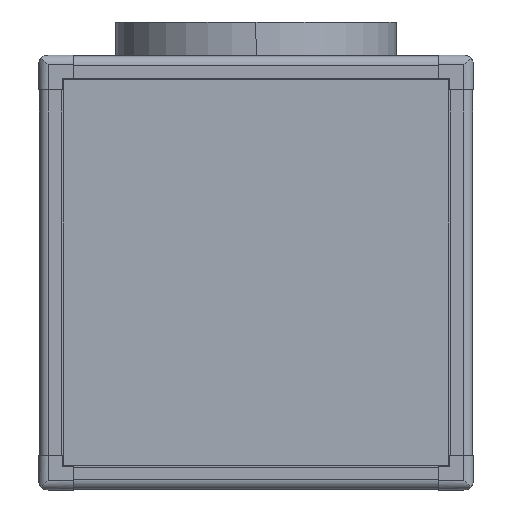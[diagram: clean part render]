
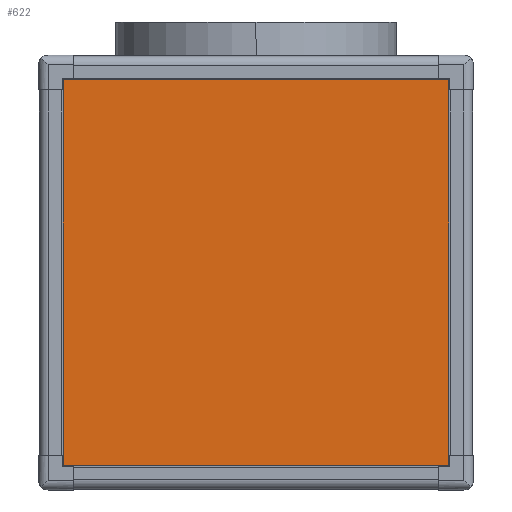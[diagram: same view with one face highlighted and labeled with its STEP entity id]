
A CAD part, front view. The second image highlights one B-rep face of the part: STEP entity #622.
In plain terms, the highlighted planar face has unit normal (0, -1, 0).
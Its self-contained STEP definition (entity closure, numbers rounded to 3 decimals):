
#622=ADVANCED_FACE('',(#1648),#1649,.T.);
#1648=FACE_OUTER_BOUND('',#3145,.T.);
#1649=PLANE('',#3146);
#3145=EDGE_LOOP('',(#5639,#5640,#5641,#5642));
#3146=AXIS2_PLACEMENT_3D('',#5643,#5644,#5645);
#5639=ORIENTED_EDGE('',*,*,#10647,.T.);
#5640=ORIENTED_EDGE('',*,*,#10639,.T.);
#5641=ORIENTED_EDGE('',*,*,#10654,.T.);
#5642=ORIENTED_EDGE('',*,*,#10631,.T.);
#5643=CARTESIAN_POINT('',(0.,-271.0,0.));
#5644=DIRECTION('',(0.,-1.0,0.));
#5645=DIRECTION('',(-1.0,0.,0.0));
#10631=EDGE_CURVE('',#13928,#13933,#13935,.T.);
#10639=EDGE_CURVE('',#13945,#13947,#13949,.T.);
#10647=EDGE_CURVE('',#13933,#13945,#13962,.T.);
#10654=EDGE_CURVE('',#13947,#13928,#13973,.T.);
#13928=VERTEX_POINT('',#20057);
#13933=VERTEX_POINT('',#20064);
#13935=LINE('',#20067,#20068);
#13945=VERTEX_POINT('',#20082);
#13947=VERTEX_POINT('',#20085);
#13949=LINE('',#20088,#20089);
#13962=LINE('',#20108,#20109);
#13973=LINE('',#20125,#20126);
#20057=CARTESIAN_POINT('',(244.0,-271.0,244.0));
#20064=CARTESIAN_POINT('',(-244.0,-271.0,244.0));
#20067=CARTESIAN_POINT('',(0.,-271.0,244.0));
#20068=VECTOR('',#25360,1.0);
#20082=CARTESIAN_POINT('',(-244.0,-271.0,-244.0));
#20085=CARTESIAN_POINT('',(244.0,-271.0,-244.0));
#20088=CARTESIAN_POINT('',(0.,-271.0,-244.0));
#20089=VECTOR('',#25367,1.0);
#20108=CARTESIAN_POINT('',(-244.0,-271.0,0.));
#20109=VECTOR('',#25374,1.0);
#20125=CARTESIAN_POINT('',(244.0,-271.0,0.));
#20126=VECTOR('',#25380,1.0);
#25360=DIRECTION('',(-1.0,0.,0.0));
#25367=DIRECTION('',(1.0,0.,0.0));
#25374=DIRECTION('',(0.,0.,-1.0));
#25380=DIRECTION('',(0.,0.,1.0));
